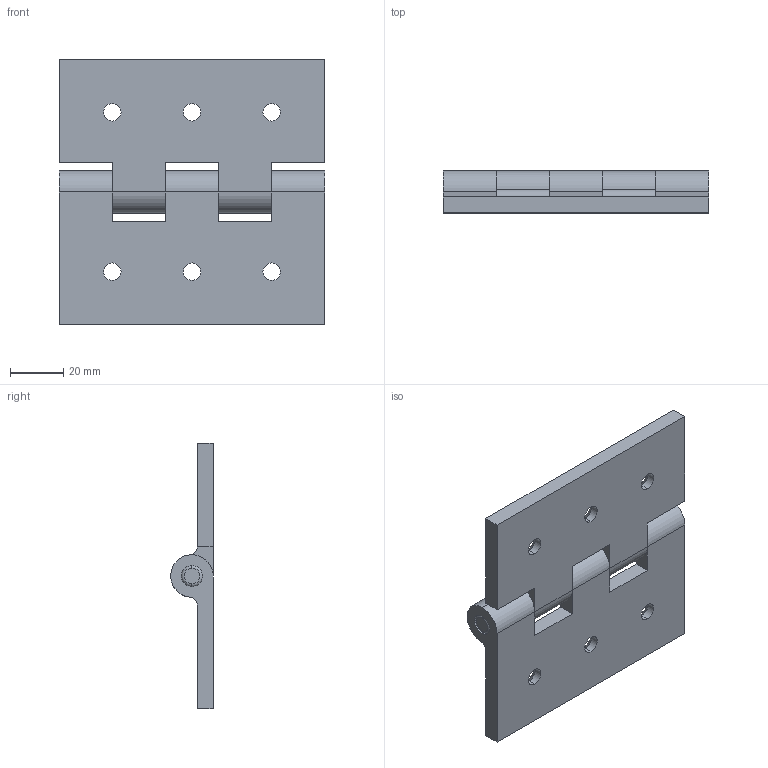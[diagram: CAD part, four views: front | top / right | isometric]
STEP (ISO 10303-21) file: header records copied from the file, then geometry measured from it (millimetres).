
FILE_DESCRIPTION (( 'STEP AP203' ), '1' );
FILE_NAME ('B04-20001.STEP', '2024-10-25T09:12:56', ( '' ), ( '' ), 'SwSTEP 2.0', 'SolidWorks 2021', '' );
FILE_SCHEMA (( 'CONFIG_CONTROL_DESIGN' ));
Length unit declared in the file: millimetre
Products named in the file (4): B04-20001; B04-1-2; B04軸心8-103; B04-1-1
Assembly tree (3 placements, depth 2):
  B04-20001
    B04-1-1
    B04-1-2
    B04軸心8-103
Bounding box: 100 x 15.99 x 100 mm (x, y, z)
Volume: 68317.1 mm3; surface area: 30724.6 mm2
Topology: 3 solids, 3 shells, 80 faces, 198 edges, 124 vertices
Faces by surface type: cylinder 39, plane 25, cone 12, torus 4
Entity records: 2846 total; most frequent: DIRECTION 468, CARTESIAN_POINT 408, ORIENTED_EDGE 396, EDGE_CURVE 198, AXIS2_PLACEMENT_3D 184, VERTEX_POINT 124, EDGE_LOOP 102, LINE 100
